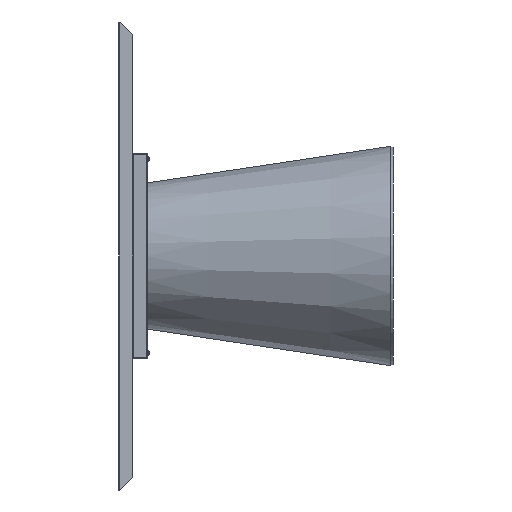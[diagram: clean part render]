
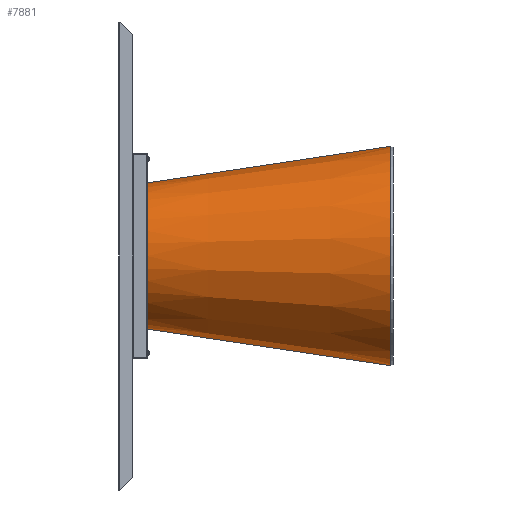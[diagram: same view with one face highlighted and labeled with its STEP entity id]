
A CAD part, left-side view. The second image highlights one B-rep face of the part: STEP entity #7881.
In plain terms, the highlighted conical face has half-angle 8.552 degrees and reference radius 200 mm.
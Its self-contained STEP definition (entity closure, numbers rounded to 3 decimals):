
#215 = DIRECTION ( 'NONE',  ( 0., -0.989, 0.149 ) ) ;
#646 = VERTEX_POINT ( 'NONE', #11082 ) ;
#711 = FACE_OUTER_BOUND ( 'NONE', #9965, .T. ) ;
#715 = EDGE_CURVE ( 'NONE', #14057, #10781, #13933, .T. ) ;
#956 = CARTESIAN_POINT ( 'NONE',  ( 0., 8., 300. ) ) ;
#1159 = DIRECTION ( 'NONE',  ( 0., 1., 0. ) ) ;
#1227 = DIRECTION ( 'NONE',  ( 0., 0., 1. ) ) ;
#1314 = DIRECTION ( 'NONE',  ( 0., -0.989, -0.149 ) ) ;
#1757 = ORIENTED_EDGE ( 'NONE', *, *, #7421, .F. ) ;
#1899 = DIRECTION ( 'NONE',  ( 0., 0., -1. ) ) ;
#3057 = AXIS2_PLACEMENT_3D ( 'NONE', #6651, #1159, #5757 ) ;
#3374 = CONICAL_SURFACE ( 'NONE', #13931, 200., 0.149 ) ;
#3561 = LINE ( 'NONE', #7022, #14544 ) ;
#4168 = CIRCLE ( 'NONE', #10412, 300. ) ;
#5231 = CIRCLE ( 'NONE', #3057, 200. ) ;
#5299 = CARTESIAN_POINT ( 'NONE',  ( 0., 673., 0. ) ) ;
#5507 = ORIENTED_EDGE ( 'NONE', *, *, #715, .F. ) ;
#5757 = DIRECTION ( 'NONE',  ( 0., 0., 1. ) ) ;
#6651 = CARTESIAN_POINT ( 'NONE',  ( 0., 673., 0. ) ) ;
#7022 = CARTESIAN_POINT ( 'NONE',  ( 0., 673., -200. ) ) ;
#7226 = DIRECTION ( 'NONE',  ( 0., 1., 0. ) ) ;
#7421 = EDGE_CURVE ( 'NONE', #13408, #14057, #5231, .T. ) ;
#7539 = EDGE_CURVE ( 'NONE', #13408, #646, #3561, .T. ) ;
#7881 = ADVANCED_FACE ( 'NONE', ( #711 ), #3374, .T. ) ;
#8199 = CARTESIAN_POINT ( 'NONE',  ( 0., 673., -200. ) ) ;
#8226 = EDGE_CURVE ( 'NONE', #646, #10781, #4168, .T. ) ;
#8962 = ORIENTED_EDGE ( 'NONE', *, *, #7539, .T. ) ;
#9726 = DIRECTION ( 'NONE',  ( 0., -1., 0. ) ) ;
#9965 = EDGE_LOOP ( 'NONE', ( #5507, #1757, #8962, #12517 ) ) ;
#10412 = AXIS2_PLACEMENT_3D ( 'NONE', #14315, #7226, #1227 ) ;
#10781 = VERTEX_POINT ( 'NONE', #956 ) ;
#11082 = CARTESIAN_POINT ( 'NONE',  ( 0., 8., -300. ) ) ;
#12093 = CARTESIAN_POINT ( 'NONE',  ( 0., 673., 200. ) ) ;
#12517 = ORIENTED_EDGE ( 'NONE', *, *, #8226, .T. ) ;
#13371 = VECTOR ( 'NONE', #215, 1000. ) ;
#13408 = VERTEX_POINT ( 'NONE', #8199 ) ;
#13858 = CARTESIAN_POINT ( 'NONE',  ( 0., 673., 200. ) ) ;
#13931 = AXIS2_PLACEMENT_3D ( 'NONE', #5299, #9726, #1899 ) ;
#13933 = LINE ( 'NONE', #13858, #13371 ) ;
#14057 = VERTEX_POINT ( 'NONE', #12093 ) ;
#14315 = CARTESIAN_POINT ( 'NONE',  ( 0., 8., 0. ) ) ;
#14544 = VECTOR ( 'NONE', #1314, 1000. ) ;
